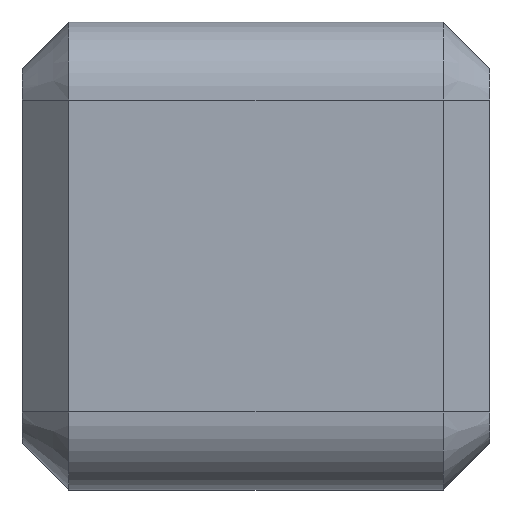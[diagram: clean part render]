
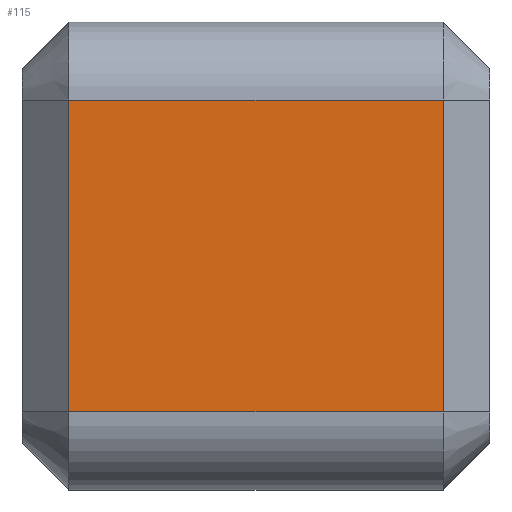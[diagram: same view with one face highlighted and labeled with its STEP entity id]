
A CAD part, left-side view. The second image highlights one B-rep face of the part: STEP entity #115.
In plain terms, the highlighted planar face has unit normal (-1, 0, 0).
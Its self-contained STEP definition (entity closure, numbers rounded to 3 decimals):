
#18 = CARTESIAN_POINT ( 'NONE',  ( 53., -5.4, 2.65 ) ) ;
#55 = CARTESIAN_POINT ( 'NONE',  ( 53., -5.1, 2.65 ) ) ;
#68 = PLANE ( 'NONE',  #581 ) ;
#96 = VECTOR ( 'NONE', #644, 1000. ) ;
#112 = DIRECTION ( 'NONE',  ( 0., -1., 0. ) ) ;
#115 = ADVANCED_FACE ( 'NONE', ( #699 ), #68, .T. ) ;
#219 = VERTEX_POINT ( 'NONE', #874 ) ;
#271 = CARTESIAN_POINT ( 'NONE',  ( 53., -2.7, 2.65 ) ) ;
#432 = LINE ( 'NONE', #55, #96 ) ;
#442 = VERTEX_POINT ( 'NONE', #504 ) ;
#491 = CARTESIAN_POINT ( 'NONE',  ( 53., -2.7, 0.65 ) ) ;
#504 = CARTESIAN_POINT ( 'NONE',  ( 53., -5.1, 2.65 ) ) ;
#505 = ORIENTED_EDGE ( 'NONE', *, *, #821, .T. ) ;
#512 = VERTEX_POINT ( 'NONE', #271 ) ;
#559 = VECTOR ( 'NONE', #112, 1000. ) ;
#566 = DIRECTION ( 'NONE',  ( -1., 0., 0. ) ) ;
#581 = AXIS2_PLACEMENT_3D ( 'NONE', #633, #566, #627 ) ;
#600 = DIRECTION ( 'NONE',  ( 0., 1., 0. ) ) ;
#607 = ORIENTED_EDGE ( 'NONE', *, *, #642, .T. ) ;
#610 = ORIENTED_EDGE ( 'NONE', *, *, #895, .T. ) ;
#624 = DIRECTION ( 'NONE',  ( 0., 0., -1. ) ) ;
#627 = DIRECTION ( 'NONE',  ( 0., 0., 1. ) ) ;
#633 = CARTESIAN_POINT ( 'NONE',  ( 53., -5.4, 0.15 ) ) ;
#642 = EDGE_CURVE ( 'NONE', #442, #512, #887, .T. ) ;
#644 = DIRECTION ( 'NONE',  ( 0., 0., 1. ) ) ;
#672 = VECTOR ( 'NONE', #600, 1000. ) ;
#696 = CARTESIAN_POINT ( 'NONE',  ( 53., -2.7, 0.15 ) ) ;
#699 = FACE_OUTER_BOUND ( 'NONE', #736, .T. ) ;
#736 = EDGE_LOOP ( 'NONE', ( #607, #824, #505, #610 ) ) ;
#763 = CARTESIAN_POINT ( 'NONE',  ( 53., -5.4, 0.65 ) ) ;
#769 = LINE ( 'NONE', #763, #559 ) ;
#804 = EDGE_CURVE ( 'NONE', #512, #870, #903, .T. ) ;
#821 = EDGE_CURVE ( 'NONE', #870, #219, #769, .T. ) ;
#824 = ORIENTED_EDGE ( 'NONE', *, *, #804, .T. ) ;
#870 = VERTEX_POINT ( 'NONE', #491 ) ;
#874 = CARTESIAN_POINT ( 'NONE',  ( 53., -5.1, 0.65 ) ) ;
#884 = VECTOR ( 'NONE', #624, 1000. ) ;
#887 = LINE ( 'NONE', #18, #672 ) ;
#895 = EDGE_CURVE ( 'NONE', #219, #442, #432, .T. ) ;
#903 = LINE ( 'NONE', #696, #884 ) ;
